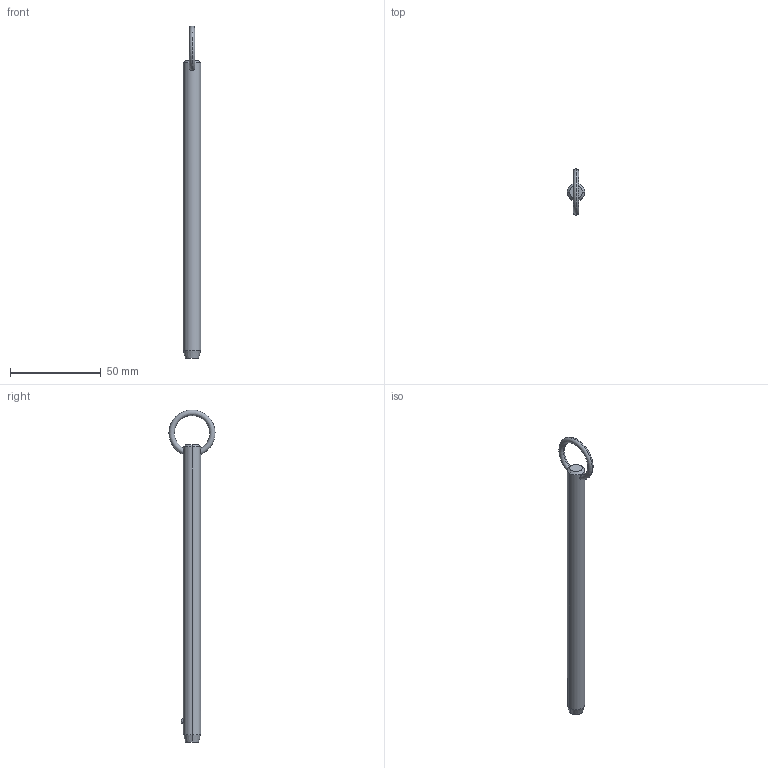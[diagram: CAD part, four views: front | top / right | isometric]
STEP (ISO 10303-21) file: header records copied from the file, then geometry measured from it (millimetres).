
FILE_DESCRIPTION (( 'STEP AP203' ), '1' );
FILE_NAME ('P1250.037-570.step', '2019-07-29T20:14:10', ( '' ), ( '' ), 'SwSTEP 2.0', 'SolidWorks 2017', '' );
FILE_SCHEMA (( 'CONFIG_CONTROL_DESIGN' ));
Length unit declared in the file: millimetre
Products named in the file (1): P1250.037-570
Bounding box: 9.52 x 25.39 x 182.9 mm (x, y, z)
Volume: 12014.1 mm3; surface area: 5542.6 mm2
Topology: 1 solids, 1 shells, 12 faces, 28 edges, 17 vertices
Faces by surface type: cone 4, torus 2, sphere 2, cylinder 2, plane 2
Entity records: 523 total; most frequent: CARTESIAN_POINT 190, DIRECTION 56, ORIENTED_EDGE 48, AXIS2_PLACEMENT_3D 25, EDGE_CURVE 24, VERTEX_POINT 15, EDGE_LOOP 15, FACE_OUTER_BOUND 12
